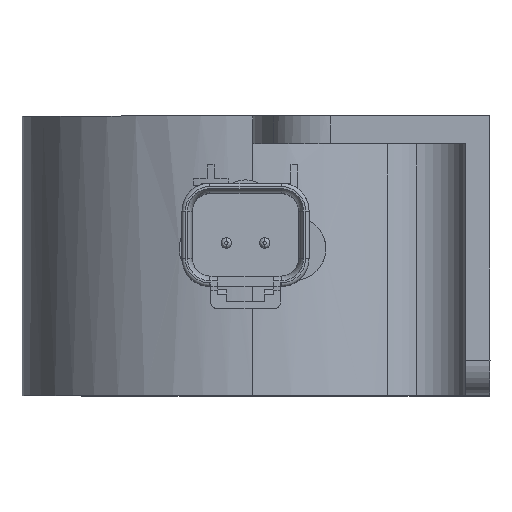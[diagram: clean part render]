
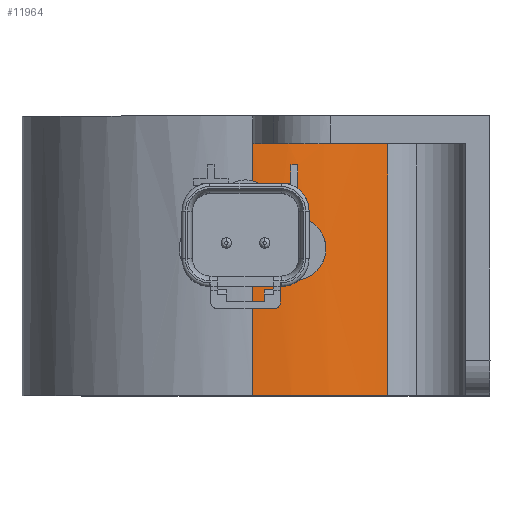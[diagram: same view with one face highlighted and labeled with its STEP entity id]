
A CAD part, top view. The second image highlights one B-rep face of the part: STEP entity #11964.
In plain terms, the highlighted cylindrical face has radius 33 mm (diameter 66 mm), a partial arc.
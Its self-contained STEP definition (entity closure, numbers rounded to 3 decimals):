
#11838=AXIS2_PLACEMENT_3D('Cylinder Axis2P3D',#11835,#11836,#11837) ;
#11842=AXIS2_PLACEMENT_3D('Circle Axis2P3D',#11840,#11841,$) ;
#11862=AXIS2_PLACEMENT_3D('Circle Axis2P3D',#11860,#11861,$) ;
#11876=AXIS2_PLACEMENT_3D('Circle Axis2P3D',#11874,#11875,$) ;
#5060=CARTESIAN_POINT('Vertex',(19.387,-3.,26.704)) ;
#5064=CARTESIAN_POINT('Control Point',(0.,-3.,33.)) ;
#5065=CARTESIAN_POINT('Control Point',(2.982,-3.,33.)) ;
#5066=CARTESIAN_POINT('Control Point',(5.964,-3.,32.663)) ;
#5067=CARTESIAN_POINT('Control Point',(8.895,-3.,31.989)) ;
#5068=CARTESIAN_POINT('Control Point',(12.828,-3.,30.601)) ;
#5069=CARTESIAN_POINT('Control Point',(16.477,-3.,28.627)) ;
#5070=CARTESIAN_POINT('Control Point',(17.476,-3.,28.029)) ;
#5071=CARTESIAN_POINT('Control Point',(18.447,-3.,27.387)) ;
#5072=CARTESIAN_POINT('Control Point',(19.387,-3.,26.704)) ;
#5073=CARTESIAN_POINT('Vertex',(0.,-3.,33.)) ;
#11140=CARTESIAN_POINT('Line Origine',(0.,-3.,33.)) ;
#11144=CARTESIAN_POINT('Vertex',(0.,33.,33.)) ;
#11820=CARTESIAN_POINT('Vertex',(19.388,33.,26.704)) ;
#11823=CARTESIAN_POINT('Line Origine',(19.388,-3.,26.704)) ;
#11835=CARTESIAN_POINT('Axis2P3D Location',(0.,-3.,0.)) ;
#11840=CARTESIAN_POINT('Axis2P3D Location',(0.,33.,0.)) ;
#11851=CARTESIAN_POINT('Line Origine',(5.5,-3.,32.538)) ;
#11855=CARTESIAN_POINT('Vertex',(5.5,30.,32.538)) ;
#11857=CARTESIAN_POINT('Vertex',(5.5,25.,32.538)) ;
#11860=CARTESIAN_POINT('Axis2P3D Location',(0.,30.,0.)) ;
#11864=CARTESIAN_POINT('Vertex',(6.5,30.,32.354)) ;
#11867=CARTESIAN_POINT('Line Origine',(6.5,-3.,32.354)) ;
#11871=CARTESIAN_POINT('Vertex',(6.5,25.,32.354)) ;
#11874=CARTESIAN_POINT('Axis2P3D Location',(0.,25.,0.)) ;
#11886=CARTESIAN_POINT('Control Point',(9.178,14.814,31.698)) ;
#11887=CARTESIAN_POINT('Control Point',(9.8,15.434,31.518)) ;
#11888=CARTESIAN_POINT('Control Point',(10.256,16.219,31.368)) ;
#11889=CARTESIAN_POINT('Control Point',(10.5,17.103,31.285)) ;
#11890=CARTESIAN_POINT('Control Point',(10.5,18.,31.285)) ;
#11891=CARTESIAN_POINT('Vertex',(9.178,14.814,31.698)) ;
#11893=CARTESIAN_POINT('Vertex',(10.5,18.,31.285)) ;
#11897=CARTESIAN_POINT('Control Point',(6.038,13.5,32.443)) ;
#11898=CARTESIAN_POINT('Control Point',(6.913,13.507,32.28)) ;
#11899=CARTESIAN_POINT('Control Point',(7.778,13.747,32.086)) ;
#11900=CARTESIAN_POINT('Control Point',(8.556,14.194,31.878)) ;
#11901=CARTESIAN_POINT('Control Point',(9.178,14.814,31.698)) ;
#11902=CARTESIAN_POINT('Vertex',(6.038,13.5,32.443)) ;
#11906=CARTESIAN_POINT('Control Point',(2.842,14.794,32.877)) ;
#11907=CARTESIAN_POINT('Control Point',(3.475,14.171,32.823)) ;
#11908=CARTESIAN_POINT('Control Point',(4.278,13.727,32.737)) ;
#11909=CARTESIAN_POINT('Control Point',(5.162,13.493,32.606)) ;
#11910=CARTESIAN_POINT('Control Point',(6.038,13.5,32.443)) ;
#11911=CARTESIAN_POINT('Vertex',(2.842,14.794,32.877)) ;
#11915=CARTESIAN_POINT('Control Point',(1.5,18.,32.966)) ;
#11916=CARTESIAN_POINT('Control Point',(1.5,17.104,32.966)) ;
#11917=CARTESIAN_POINT('Control Point',(1.747,16.215,32.955)) ;
#11918=CARTESIAN_POINT('Control Point',(2.209,15.418,32.932)) ;
#11919=CARTESIAN_POINT('Control Point',(2.842,14.794,32.877)) ;
#11920=CARTESIAN_POINT('Vertex',(1.5,18.,32.966)) ;
#11924=CARTESIAN_POINT('Control Point',(2.844,21.208,32.877)) ;
#11925=CARTESIAN_POINT('Control Point',(2.206,20.58,32.932)) ;
#11926=CARTESIAN_POINT('Control Point',(1.743,19.785,32.955)) ;
#11927=CARTESIAN_POINT('Control Point',(1.5,18.897,32.966)) ;
#11928=CARTESIAN_POINT('Control Point',(1.5,18.,32.966)) ;
#11929=CARTESIAN_POINT('Vertex',(2.844,21.208,32.877)) ;
#11933=CARTESIAN_POINT('Control Point',(9.178,21.186,31.698)) ;
#11934=CARTESIAN_POINT('Control Point',(8.812,21.552,31.804)) ;
#11935=CARTESIAN_POINT('Control Point',(8.391,21.862,31.92)) ;
#11936=CARTESIAN_POINT('Control Point',(7.929,22.11,32.039)) ;
#11937=CARTESIAN_POINT('Control Point',(7.052,22.434,32.246)) ;
#11938=CARTESIAN_POINT('Control Point',(6.123,22.527,32.431)) ;
#11939=CARTESIAN_POINT('Control Point',(5.717,22.519,32.505)) ;
#11940=CARTESIAN_POINT('Control Point',(4.835,22.399,32.651)) ;
#11941=CARTESIAN_POINT('Control Point',(4.,22.069,32.761)) ;
#11942=CARTESIAN_POINT('Control Point',(3.576,21.835,32.809)) ;
#11943=CARTESIAN_POINT('Control Point',(3.188,21.546,32.847)) ;
#11944=CARTESIAN_POINT('Control Point',(2.844,21.208,32.877)) ;
#11945=CARTESIAN_POINT('Vertex',(9.178,21.186,31.698)) ;
#11949=CARTESIAN_POINT('Control Point',(10.5,18.,31.285)) ;
#11950=CARTESIAN_POINT('Control Point',(10.5,18.897,31.285)) ;
#11951=CARTESIAN_POINT('Control Point',(10.25,19.783,31.369)) ;
#11952=CARTESIAN_POINT('Control Point',(9.796,20.57,31.519)) ;
#11953=CARTESIAN_POINT('Control Point',(9.178,21.186,31.698)) ;
#11141=DIRECTION('Vector Direction',(0.,-1.,0.)) ;
#11824=DIRECTION('Vector Direction',(0.,-1.,0.)) ;
#11836=DIRECTION('Axis2P3D Direction',(0.,-1.,0.)) ;
#11837=DIRECTION('Axis2P3D XDirection',(0.,0.,-1.)) ;
#11841=DIRECTION('Axis2P3D Direction',(0.,-1.,0.)) ;
#11852=DIRECTION('Vector Direction',(0.,-1.,0.)) ;
#11861=DIRECTION('Axis2P3D Direction',(0.,-1.,0.)) ;
#11868=DIRECTION('Vector Direction',(0.,-1.,0.)) ;
#11875=DIRECTION('Axis2P3D Direction',(0.,-1.,0.)) ;
#11142=VECTOR('Line Direction',#11141,1.) ;
#11825=VECTOR('Line Direction',#11824,1.) ;
#11853=VECTOR('Line Direction',#11852,1.) ;
#11869=VECTOR('Line Direction',#11868,1.) ;
#11846=ORIENTED_EDGE('',*,*,#11146,.T.) ;
#11847=ORIENTED_EDGE('',*,*,#5075,.T.) ;
#11848=ORIENTED_EDGE('',*,*,#11827,.F.) ;
#11849=ORIENTED_EDGE('',*,*,#11844,.T.) ;
#11880=ORIENTED_EDGE('',*,*,#11859,.F.) ;
#11881=ORIENTED_EDGE('',*,*,#11866,.F.) ;
#11882=ORIENTED_EDGE('',*,*,#11873,.T.) ;
#11883=ORIENTED_EDGE('',*,*,#11878,.T.) ;
#11956=ORIENTED_EDGE('',*,*,#11895,.F.) ;
#11957=ORIENTED_EDGE('',*,*,#11904,.F.) ;
#11958=ORIENTED_EDGE('',*,*,#11913,.F.) ;
#11959=ORIENTED_EDGE('',*,*,#11922,.F.) ;
#11960=ORIENTED_EDGE('',*,*,#11931,.F.) ;
#11961=ORIENTED_EDGE('',*,*,#11947,.F.) ;
#11962=ORIENTED_EDGE('',*,*,#11954,.F.) ;
#11884=FACE_BOUND('',#11879,.T.) ;
#11963=FACE_BOUND('',#11955,.T.) ;
#11964=ADVANCED_FACE('Warner',(#11850,#11884,#11963),#11839,.T.) ;
#5063=B_SPLINE_CURVE_WITH_KNOTS('',5,(#5064,#5065,#5066,#5067,#5068,#5069,#5070,#5071,#5072),.UNSPECIFIED.,.F.,.U.,(6,3,6),(175.92,197.006,205.227),.UNSPECIFIED.) ;
#11885=B_SPLINE_CURVE_WITH_KNOTS('',4,(#11886,#11887,#11888,#11889,#11890),.UNSPECIFIED.,.F.,.U.,(5,5),(0.,5.113),.UNSPECIFIED.) ;
#11896=B_SPLINE_CURVE_WITH_KNOTS('',4,(#11897,#11898,#11899,#11900,#11901),.UNSPECIFIED.,.F.,.U.,(5,5),(0.,5.111),.UNSPECIFIED.) ;
#11905=B_SPLINE_CURVE_WITH_KNOTS('',4,(#11906,#11907,#11908,#11909,#11910),.UNSPECIFIED.,.F.,.U.,(5,5),(0.,5.107),.UNSPECIFIED.) ;
#11914=B_SPLINE_CURVE_WITH_KNOTS('',4,(#11915,#11916,#11917,#11918,#11919),.UNSPECIFIED.,.F.,.U.,(5,5),(0.,5.112),.UNSPECIFIED.) ;
#11923=B_SPLINE_CURVE_WITH_KNOTS('',4,(#11924,#11925,#11926,#11927,#11928),.UNSPECIFIED.,.F.,.U.,(5,5),(0.,5.114),.UNSPECIFIED.) ;
#11932=B_SPLINE_CURVE_WITH_KNOTS('',5,(#11933,#11934,#11935,#11936,#11937,#11938,#11939,#11940,#11941,#11942,#11943,#11944),.UNSPECIFIED.,.F.,.U.,(6,3,3,6),(0.,3.796,6.787,10.23),.UNSPECIFIED.) ;
#11948=B_SPLINE_CURVE_WITH_KNOTS('',4,(#11949,#11950,#11951,#11952,#11953),.UNSPECIFIED.,.F.,.U.,(5,5),(0.,5.111),.UNSPECIFIED.) ;
#11843=CIRCLE('generated circle',#11842,33.) ;
#11863=CIRCLE('generated circle',#11862,33.) ;
#11877=CIRCLE('generated circle',#11876,33.) ;
#11839=CYLINDRICAL_SURFACE('generated cylinder',#11838,33.) ;
#5075=EDGE_CURVE('',#5074,#5061,#5063,.T.) ;
#11146=EDGE_CURVE('',#11145,#5074,#11143,.T.) ;
#11827=EDGE_CURVE('',#11821,#5061,#11826,.T.) ;
#11844=EDGE_CURVE('',#11821,#11145,#11843,.T.) ;
#11859=EDGE_CURVE('',#11856,#11858,#11854,.T.) ;
#11866=EDGE_CURVE('',#11865,#11856,#11863,.T.) ;
#11873=EDGE_CURVE('',#11865,#11872,#11870,.T.) ;
#11878=EDGE_CURVE('',#11872,#11858,#11877,.T.) ;
#11895=EDGE_CURVE('',#11892,#11894,#11885,.T.) ;
#11904=EDGE_CURVE('',#11903,#11892,#11896,.T.) ;
#11913=EDGE_CURVE('',#11912,#11903,#11905,.T.) ;
#11922=EDGE_CURVE('',#11921,#11912,#11914,.T.) ;
#11931=EDGE_CURVE('',#11930,#11921,#11923,.T.) ;
#11947=EDGE_CURVE('',#11946,#11930,#11932,.T.) ;
#11954=EDGE_CURVE('',#11894,#11946,#11948,.T.) ;
#11845=EDGE_LOOP('',(#11846,#11847,#11848,#11849)) ;
#11879=EDGE_LOOP('',(#11880,#11881,#11882,#11883)) ;
#11955=EDGE_LOOP('',(#11956,#11957,#11958,#11959,#11960,#11961,#11962)) ;
#11850=FACE_OUTER_BOUND('',#11845,.T.) ;
#11143=LINE('Line',#11140,#11142) ;
#11826=LINE('Line',#11823,#11825) ;
#11854=LINE('Line',#11851,#11853) ;
#11870=LINE('Line',#11867,#11869) ;
#5061=VERTEX_POINT('',#5060) ;
#5074=VERTEX_POINT('',#5073) ;
#11145=VERTEX_POINT('',#11144) ;
#11821=VERTEX_POINT('',#11820) ;
#11856=VERTEX_POINT('',#11855) ;
#11858=VERTEX_POINT('',#11857) ;
#11865=VERTEX_POINT('',#11864) ;
#11872=VERTEX_POINT('',#11871) ;
#11892=VERTEX_POINT('',#11891) ;
#11894=VERTEX_POINT('',#11893) ;
#11903=VERTEX_POINT('',#11902) ;
#11912=VERTEX_POINT('',#11911) ;
#11921=VERTEX_POINT('',#11920) ;
#11930=VERTEX_POINT('',#11929) ;
#11946=VERTEX_POINT('',#11945) ;
